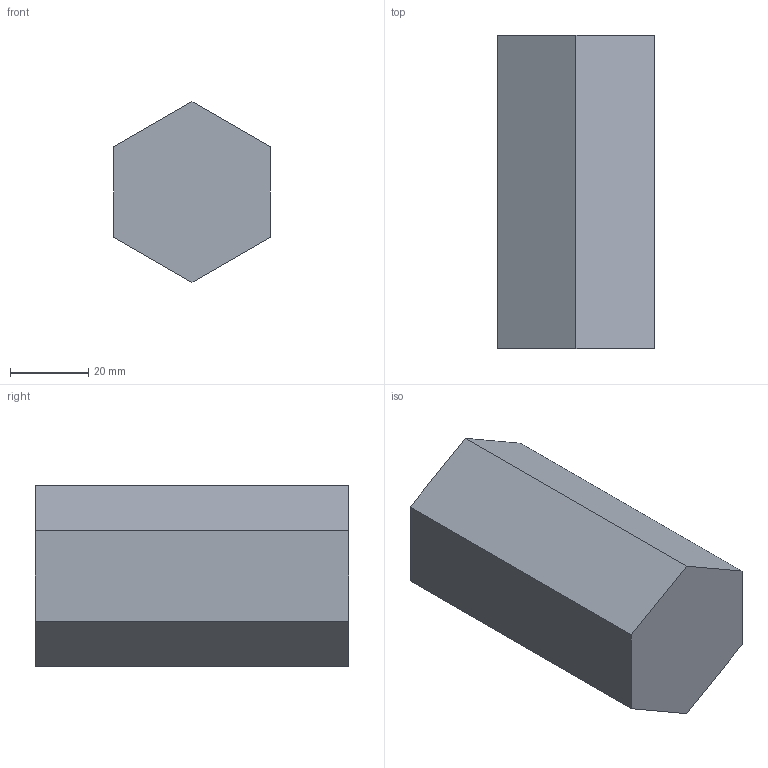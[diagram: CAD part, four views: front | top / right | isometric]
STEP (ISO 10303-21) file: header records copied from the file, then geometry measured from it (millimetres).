
FILE_DESCRIPTION(/* description */ ('','CAx-IF Rec.Pracs.---Representation and Presentation of Product Manufacturing Information (PMI)---4.0---2014-10-13'),/* implementation_level */ '2;1');
FILE_NAME(/* name */ '1.stp',/* time_stamp */ '2026-06-27T16:24:40+01:00',/* author */ ('hunte'),/* organization */ (''),/* preprocessor_version */ 'ST-DEVELOPER v20',/* originating_system */ 'Autodesk Inventor 2024',/* authorisation */ '');
FILE_SCHEMA (('AP242_MANAGED_MODEL_BASED_3D_ENGINEERING_MIM_LF { 1 0 10303 442 1 1 4 }'));
Length unit declared in the file: millimetre
Products named in the file (1): 1
Bounding box: 40 x 80 x 46.19 mm (x, y, z)
Volume: 110851.3 mm3; surface area: 13856.4 mm2
Topology: 1 solids, 1 shells, 8 faces, 18 edges, 12 vertices
Faces by surface type: plane 8
Entity records: 353 total; most frequent: DIRECTION 62, CARTESIAN_POINT 56, ORIENTED_EDGE 36, AXIS2_PLACEMENT_3D 22, LINE 18, VECTOR 18, EDGE_CURVE 18, VERTEX_POINT 12
